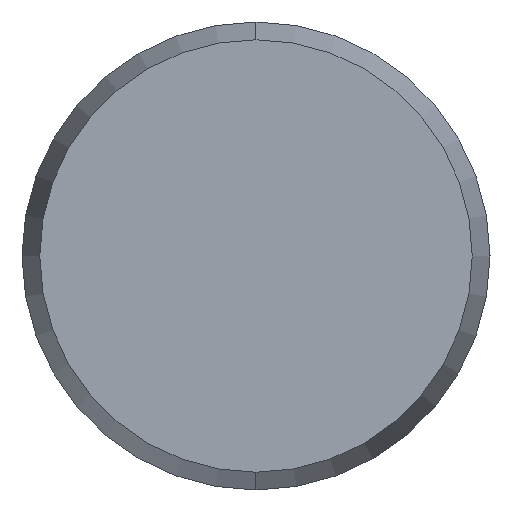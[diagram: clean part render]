
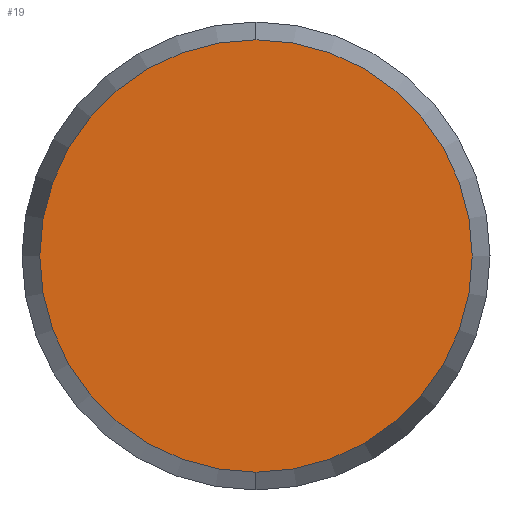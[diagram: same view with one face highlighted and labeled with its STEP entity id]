
A CAD part, left-side view. The second image highlights one B-rep face of the part: STEP entity #19.
In plain terms, the highlighted planar face has unit normal (-1, 0, 0).
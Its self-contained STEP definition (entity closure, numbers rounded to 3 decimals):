
#16 = EDGE_CURVE ( 'NONE', #33, #32, #127, .T. ) ;
#19 = ADVANCED_FACE ( 'NONE', ( #123 ), #122, .F. ) ;
#20 = EDGE_LOOP ( 'NONE', ( #21, #22 ) ) ;
#21 = ORIENTED_EDGE ( 'NONE', *, *, #31, .F. ) ;
#22 = ORIENTED_EDGE ( 'NONE', *, *, #16, .F. ) ;
#31 = EDGE_CURVE ( 'NONE', #32, #33, #114, .T. ) ;
#32 = VERTEX_POINT ( 'NONE', #106 ) ;
#33 = VERTEX_POINT ( 'NONE', #105 ) ;
#38 = CARTESIAN_POINT ( 'NONE',  ( -25., 0., 0. ) ) ;
#105 = CARTESIAN_POINT ( 'NONE',  ( -25., 0., -5.544 ) ) ;
#106 = CARTESIAN_POINT ( 'NONE',  ( -25., 0., 5.544 ) ) ;
#107 = DIRECTION ( 'NONE',  ( 0., 0., -1. ) ) ;
#108 = DIRECTION ( 'NONE',  ( 1., 0., 0. ) ) ;
#109 = CARTESIAN_POINT ( 'NONE',  ( -25., 0., 0. ) ) ;
#110 = AXIS2_PLACEMENT_3D ( 'NONE', #109, #108, #107 ) ;
#114 = CIRCLE ( 'NONE', #110, 5.544 ) ;
#117 = DIRECTION ( 'NONE',  ( 0., 0., -1. ) ) ;
#118 = DIRECTION ( 'NONE',  ( 1., 0., 0. ) ) ;
#119 = CARTESIAN_POINT ( 'NONE',  ( -25., 0., 0. ) ) ;
#121 = AXIS2_PLACEMENT_3D ( 'NONE', #119, #118, #117 ) ;
#122 = PLANE ( 'NONE',  #121 ) ;
#123 = FACE_OUTER_BOUND ( 'NONE', #20, .T. ) ;
#124 = DIRECTION ( 'NONE',  ( 0., 0., -1. ) ) ;
#125 = DIRECTION ( 'NONE',  ( 1., 0., 0. ) ) ;
#126 = AXIS2_PLACEMENT_3D ( 'NONE', #38, #125, #124 ) ;
#127 = CIRCLE ( 'NONE', #126, 5.544 ) ;
